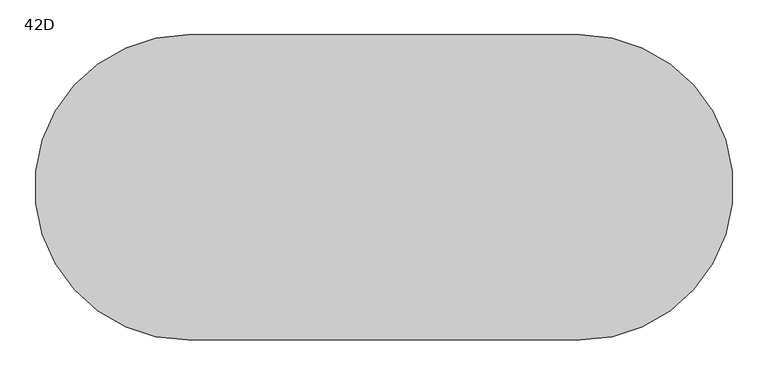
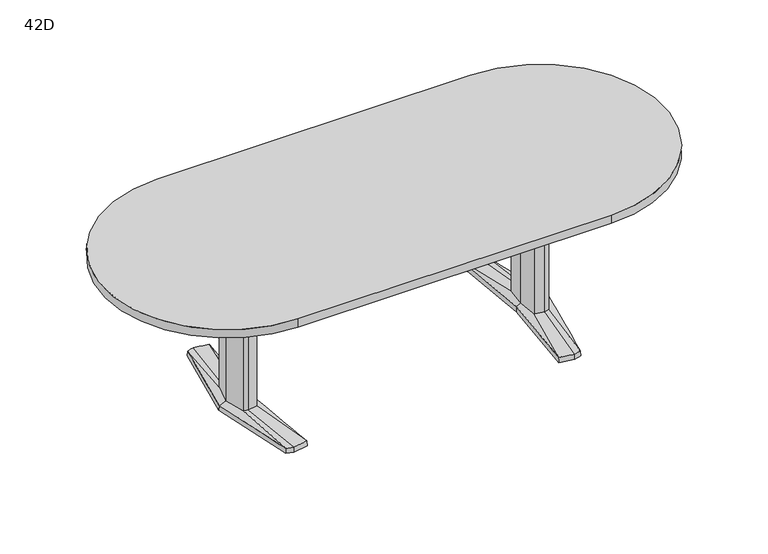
"""IFC4 building model written with IfcOpenShell, lengths in millimetres: furniture geometry, Coalesse_AM_Table_Conference_ETable2_Racetrack_96in_AluminiumBase : 42D."""

from ifc_helpers import new_model, si_unit, point, frame, frame_2d, origin, place, context, project, spatial, polyline, circle_curve, trimmed, segment, composite_curve, outline, extrude, source, transform, mapped, element, save
from ifc_brep_helpers import plane_surface, spline_surface, advanced_brep


def furniture_42d_156f3e94(model_context):
    return source(origin(), model_context, "Body", "SolidModel", [
        advanced_brep(
        [(614.8503471, -379.3768856, 25.4), (644.5756636, -371.5332654, 25.4), (668.2327243, -89.293702, 36.5125), (648.9795254, -94.605478, 36.5125), (606.0521001, -87.0529327, 36.5125), (551.7612538, -368.5071562, 25.4), (597.9364207, 0.0, 36.5125), (579.8389754, 0.3970149, 25.4), (606.0521001, 87.0529327, 36.5125), (551.7615002, 368.5172593, 25.4), (648.9795254, 94.605478, 36.5125), (614.8502233, 379.3769183, 25.4), (668.2327243, 89.293702, 36.5125), (644.7535458, 371.4863276, 25.4), (692.1595251, 0.0, 36.5125), (721.4851663, 0.0003516, 25.4), (578.2468742, 0.3968871, 3.175), (550.06875, 369.8367279, 3.175), (614.9213004, 381.0, 3.175), (646.1093245, 372.7704151, 3.175), (723.10625, 0.0, 3.175), (645.9309817, -372.8174744, 3.175), (614.9213004, -381.0, 3.175), (550.06875, -369.8264415, 3.175), (649.5979264, 107.6121478, 3.175), (594.3065451, 97.8843184, 3.175), (585.1810887, 0.0, 3.175), (594.3065451, -97.8843184, 3.175), (649.5979264, -107.6121478, 3.175), (678.6183473, -99.6056872, 3.175), (705.3083085, 0.0, 3.175), (678.6183473, 99.6056872, 3.175), (613.4286812, 346.9152841, 3.175), (557.7811371, 337.3364985, 3.175), (560.1889918, 324.8641942, 3.175), (612.8600644, 333.9306305, 3.175), (648.6725609, 324.4807859, 3.175), (647.5544526, 337.9105158, 3.175), (613.4286812, -346.9152841, 3.175), (647.5544526, -337.9105158, 3.175), (648.6725609, -324.4807859, 3.175), (612.8600644, -333.9306305, 3.175), (560.1889918, -324.8641942, 3.175), (557.7811371, -337.3364985, 3.175), (649.5979264, 107.6121478, 0.0), (678.6183473, 99.6056872, 0.0), (705.3083085, 0.0, 0.0), (678.6183473, -99.6056872, 0.0), (649.5979264, -107.6121478, 0.0), (594.3065451, -97.8843184, 0.0), (585.1810887, 0.0, 0.0), (594.3065451, 97.8843184, 0.0), (613.4286812, 346.9152841, 0.0), (647.5544526, 337.9105158, 0.0), (648.6725609, 324.4807859, 0.0), (612.8600644, 333.9306305, 0.0), (560.1889918, 324.8641942, 0.0), (557.7811371, 337.3364985, 0.0), (613.4286812, -346.9152841, 0.0), (557.7811371, -337.3364985, 0.0), (560.1889918, -324.8641942, 0.0), (612.8600644, -333.9306305, 0.0), (648.6725609, -324.4807859, 0.0), (647.5544526, -337.9105158, 0.0), (668.2327243, 89.293702, 698.5), (648.9795254, 94.605478, 698.5), (606.0521001, 87.0529327, 698.5), (597.9364207, 0.0, 698.5), (606.0521001, -87.0529327, 698.5), (648.9795254, -94.605478, 698.5), (668.2327243, -89.293702, 698.5), (692.1595251, 0.0, 698.5)],
        [
            (0, 1),
            (1, 2),
            (2, 3),
            (3, 0),
            (3, 4),
            (4, 5),
            (5, 0),
            (4, 6),
            (6, 7),
            (7, 5),
            (6, 8),
            (8, 9),
            (9, 7),
            (8, 10),
            (10, 11),
            (11, 9),
            (10, 12),
            (12, 13),
            (13, 11),
            (12, 14),
            (14, 15),
            (15, 13),
            (1, 15),
            (14, 2),
            (16, 17),
            (17, 18),
            (18, 19),
            (19, 20),
            (20, 21),
            (21, 22),
            (22, 23),
            (23, 16),
            (24, 25),
            (25, 26),
            (26, 27),
            (27, 28),
            (28, 29),
            (29, 30),
            (30, 31),
            (31, 24),
            (32, 33),
            (33, 34),
            (34, 35),
            (35, 36),
            (36, 37),
            (37, 32),
            (38, 39),
            (39, 40),
            (40, 41),
            (41, 42),
            (42, 43),
            (43, 38),
            (16, 7),
            (9, 17),
            (11, 18),
            (13, 19),
            (15, 20),
            (1, 21),
            (0, 22),
            (5, 23),
            (44, 45),
            (45, 46),
            (46, 47),
            (47, 48),
            (48, 49),
            (49, 50),
            (50, 51),
            (51, 44),
            (52, 53),
            (53, 54),
            (54, 55),
            (55, 56),
            (56, 57),
            (57, 52),
            (58, 59),
            (59, 60),
            (60, 61),
            (61, 62),
            (62, 63),
            (63, 58),
            (44, 24),
            (31, 45),
            (30, 46),
            (29, 47),
            (28, 48),
            (27, 49),
            (26, 50),
            (25, 51),
            (52, 32),
            (37, 53),
            (36, 54),
            (35, 55),
            (34, 56),
            (33, 57),
            (58, 38),
            (43, 59),
            (42, 60),
            (41, 61),
            (40, 62),
            (39, 63),
            (64, 65),
            (65, 66),
            (66, 67),
            (67, 68),
            (68, 69),
            (69, 70),
            (70, 71),
            (71, 64),
            (71, 14),
            (12, 64),
            (70, 2),
            (69, 3),
            (68, 4),
            (67, 6),
            (66, 8),
            (65, 10),
        ],
        [
            spline_surface(1, 1, [[(644.5756636, -371.5332654, 25.4), (614.8503471, -379.3768856, 25.4)], [(668.2327243, -89.293702, 36.5125), (648.9795254, -94.605478, 36.5125)]], [2, 2], [2, 2], [0.0, 1.0], [0.0, 1.0]),
            spline_surface(1, 1, [[(614.8503471, -379.3768856, 25.4), (551.7612538, -368.5071562, 25.4)], [(648.9795254, -94.605478, 36.5125), (606.0521001, -87.0529327, 36.5125)]], [2, 2], [2, 2], [0.0, 1.0], [0.0, 1.0]),
            spline_surface(1, 1, [[(551.7612538, -368.5071562, 25.4), (579.8389754, 0.3970149, 25.4)], [(606.0521001, -87.0529327, 36.5125), (597.9364207, 0.0, 36.5125)]], [2, 2], [2, 2], [0.0, 1.0], [0.0, 1.0]),
            spline_surface(1, 1, [[(579.8389754, 0.3970149, 25.4), (551.7615002, 368.5172593, 25.4)], [(597.9364207, 0.0, 36.5125), (606.0521001, 87.0529327, 36.5125)]], [2, 2], [2, 2], [0.0, 1.0], [0.0, 1.0]),
            spline_surface(1, 1, [[(551.7615002, 368.5172593, 25.4), (614.8502233, 379.3769183, 25.4)], [(606.0521001, 87.0529327, 36.5125), (648.9795254, 94.605478, 36.5125)]], [2, 2], [2, 2], [0.0, 1.0], [0.0, 1.0]),
            spline_surface(1, 1, [[(614.8502233, 379.3769183, 25.4), (644.7535458, 371.4863276, 25.4)], [(648.9795254, 94.605478, 36.5125), (668.2327243, 89.293702, 36.5125)]], [2, 2], [2, 2], [0.0, 1.0], [0.0, 1.0]),
            spline_surface(1, 1, [[(644.7535458, 371.4863276, 25.4), (721.4851663, 0.0003516, 25.4)], [(668.2327243, 89.293702, 36.5125), (692.1595251, 0.0, 36.5125)]], [2, 2], [2, 2], [0.0, 1.0], [0.0, 1.0]),
            spline_surface(1, 1, [[(721.4851663, 0.0003516, 25.4), (644.5756636, -371.5332654, 25.4)], [(692.1595251, 0.0, 36.5125), (668.2327243, -89.293702, 36.5125)]], [2, 2], [2, 2], [0.0, 1.0], [0.0, 1.0]),
            plane_surface(frame((615.4216914, 0.0450143, 3.175), z_axis=(0.0, 0.0, -1.0), x_axis=(-0.9669048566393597, -0.2551372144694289, 0.0))),
            plane_surface(frame((564.1578121, 185.1168075, 3.175), z_axis=(-0.9945699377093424, -0.07585840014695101, 0.0712470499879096), x_axis=(-0.07605167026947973, 0.9971038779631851, 0.0))),
            plane_surface(frame((582.4950252, 375.418364, 3.175), z_axis=(-0.1692071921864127, 0.9830019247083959, 0.07124704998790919), x_axis=(0.985506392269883, 0.16963829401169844, 0.0))),
            plane_surface(frame((630.5153124, 376.8852076, 3.175), z_axis=(0.2544888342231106, 0.9644476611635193, 0.07124704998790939), x_axis=(0.9669048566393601, -0.25513721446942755, 0.0))),
            plane_surface(frame((684.6077872, 186.3852076, 3.175), z_axis=(0.9768383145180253, 0.2017690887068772, 0.07124704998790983), x_axis=(0.20228315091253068, -0.9793270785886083, 0.0))),
            plane_surface(frame((684.5186158, -186.4087372, 3.175), z_axis=(0.9767507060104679, -0.20219276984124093, 0.07124704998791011), x_axis=(-0.2027079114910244, -0.9792392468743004, 0.0))),
            plane_surface(frame((630.426141, -376.9087372, 3.175), z_axis=(0.2544888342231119, -0.9644476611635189, 0.0712470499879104), x_axis=(-0.9669048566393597, -0.2551372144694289, 0.0))),
            plane_surface(frame((582.4950252, -375.4132207, 3.175), z_axis=(-0.16935861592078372, -0.982975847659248, 0.07124704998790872), x_axis=(-0.9854802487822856, 0.16979010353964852, 0.0))),
            plane_surface(frame((564.1578121, -184.7147772, 3.175), z_axis=(-0.9945820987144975, 0.07569878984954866, 0.07124704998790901), x_axis=(0.07589165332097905, 0.9971160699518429, 0.0))),
            plane_surface(frame((652.3571479, 106.8509046, 0.0), z_axis=(0.0, 0.0, -1.0000000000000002), x_axis=(-0.9639855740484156, 0.26595453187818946, 0.0))),
            plane_surface(frame((649.5979264, 107.6121478, 3.175), z_axis=(0.26595453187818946, 0.9639855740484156, 0.0), x_axis=(0.0, 0.0, -1.0))),
            plane_surface(frame((678.6183473, 99.6056872, 3.175), z_axis=(0.9659241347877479, 0.2588253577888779, 0.0), x_axis=(0.0, 0.0, -1.0))),
            plane_surface(frame((705.3083085, 0.0, 3.175), z_axis=(0.9659241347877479, -0.2588253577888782, 0.0), x_axis=(0.0, 0.0, -1.0))),
            plane_surface(frame((678.6183473, -99.6056872, 3.175), z_axis=(0.26595453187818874, -0.9639855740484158, 0.0), x_axis=(0.0, 0.0, -1.0))),
            plane_surface(frame((649.5979264, -107.6121478, 3.175), z_axis=(-0.17327617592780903, -0.9848732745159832, 0.0), x_axis=(0.0, 0.0, -1.0))),
            plane_surface(frame((594.3065451, -97.8843184, 3.175), z_axis=(-0.9956824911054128, -0.0928244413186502, 0.0), x_axis=(0.0, 0.0, -1.0))),
            plane_surface(frame((585.1810887, 0.0, 3.175), z_axis=(-0.9956824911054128, 0.09282444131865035, 0.0), x_axis=(0.0, 0.0, -1.0))),
            plane_surface(frame((594.3065451, 97.8843184, 3.175), z_axis=(-0.17327617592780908, 0.984873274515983, 0.0), x_axis=(0.0, 0.0, -1.0))),
            plane_surface(frame((613.4286812, 346.9152841, 3.175), z_axis=(0.25513721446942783, 0.9669048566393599, 0.0), x_axis=(0.0, 0.0, -1.0))),
            plane_surface(frame((647.5544526, 337.9105158, 3.175), z_axis=(0.9965521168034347, 0.0829691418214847, 0.0), x_axis=(0.0, 0.0, -1.0))),
            plane_surface(frame((648.6725609, 324.4807859, 3.175), z_axis=(-0.25513721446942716, -0.9669048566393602, 0.0), x_axis=(0.0, 0.0, -1.0))),
            plane_surface(frame((612.8600644, 333.9306305, 3.175), z_axis=(0.16963829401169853, -0.985506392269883, 0.0), x_axis=(0.0, 0.0, -1.0))),
            plane_surface(frame((560.1889918, 324.8641942, 3.175), z_axis=(-0.9818699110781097, -0.18955600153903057, 0.0), x_axis=(0.0, 0.0, -1.0))),
            plane_surface(frame((557.7811371, 337.3364985, 3.175), z_axis=(-0.16963829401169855, 0.9855063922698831, 0.0), x_axis=(0.0, 0.0, -1.0))),
            plane_surface(frame((613.4286812, -346.9152841, 3.175), z_axis=(-0.1696382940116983, -0.9855063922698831, 0.0), x_axis=(0.0, 0.0, -1.0))),
            plane_surface(frame((557.7811371, -337.3364985, 3.175), z_axis=(-0.9818699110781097, 0.18955600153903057, 0.0), x_axis=(0.0, 0.0, -1.0))),
            plane_surface(frame((560.1889918, -324.8641942, 3.175), z_axis=(0.16963829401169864, 0.985506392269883, 0.0), x_axis=(0.0, 0.0, -1.0))),
            plane_surface(frame((612.8600644, -333.9306305, 3.175), z_axis=(-0.2551372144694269, 0.9669048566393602, 0.0), x_axis=(0.0, 0.0, -1.0))),
            plane_surface(frame((648.6725609, -324.4807859, 3.175), z_axis=(0.9965521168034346, -0.0829691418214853, 0.0), x_axis=(0.0, 0.0, -1.0))),
            plane_surface(frame((647.5544526, -337.9105158, 3.175), z_axis=(0.2551372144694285, -0.9669048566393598, 0.0), x_axis=(0.0, 0.0, -1.0))),
            plane_surface(frame((692.1595251, 0.0, 698.5), z_axis=(0.0, 0.0, 1.0), x_axis=(0.25882535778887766, -0.965924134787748, 0.0))),
            plane_surface(frame((668.2327243, 89.293702, 698.5), z_axis=(0.965924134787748, 0.25882535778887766, 0.0), x_axis=(0.0, 0.0, -1.0))),
            plane_surface(frame((692.1595251, 0.0, 698.5), z_axis=(0.965924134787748, -0.2588253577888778, 0.0), x_axis=(0.0, 0.0, -1.0))),
            plane_surface(frame((668.2327243, -89.293702, 698.5), z_axis=(0.2659545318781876, -0.963985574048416, 0.0), x_axis=(0.0, 0.0, -1.0))),
            plane_surface(frame((648.9795254, -94.605478, 698.5), z_axis=(-0.1732761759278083, -0.9848732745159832, 0.0), x_axis=(0.0, 0.0, -1.0))),
            plane_surface(frame((606.0521001, -87.0529327, 698.5), z_axis=(-0.9956824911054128, -0.0928244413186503, 0.0), x_axis=(0.0, 0.0, -1.0))),
            plane_surface(frame((597.9364207, 0.0, 698.5), z_axis=(-0.9956824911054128, 0.09282444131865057, 0.0), x_axis=(0.0, 0.0, -1.0))),
            plane_surface(frame((606.0521001, 87.0529327, 698.5), z_axis=(-0.17327617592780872, 0.9848732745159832, 0.0), x_axis=(0.0, 0.0, -1.0))),
            plane_surface(frame((648.9795254, 94.605478, 698.5), z_axis=(0.26595453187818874, 0.9639855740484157, 0.0), x_axis=(0.0, 0.0, -1.0))),
        ],
        [
            (0, [[1, 2, 3, 4]]),
            (1, [[5, 6, 7, -4]]),
            (2, [[8, 9, 10, -6]]),
            (3, [[11, 12, 13, -9]]),
            (4, [[14, 15, 16, -12]]),
            (5, [[17, 18, 19, -15]]),
            (6, [[20, 21, 22, -18]]),
            (7, [[23, -21, 24, -2]]),
            (8, [[25, 26, 27, 28, 29, 30, 31, 32], [33, 34, 35, 36, 37, 38, 39, 40], [41, 42, 43, 44, 45, 46], [47, 48, 49, 50, 51, 52]]),
            (9, [[53, -13, 54, -25]]),
            (10, [[-54, -16, 55, -26]]),
            (11, [[-55, -19, 56, -27]]),
            (12, [[-56, -22, 57, -28]]),
            (13, [[-57, -23, 58, -29]]),
            (14, [[-58, -1, 59, -30]]),
            (15, [[-59, -7, 60, -31]]),
            (16, [[-60, -10, -53, -32]]),
            (17, [[61, 62, 63, 64, 65, 66, 67, 68]]),
            (17, [[69, 70, 71, 72, 73, 74]]),
            (17, [[75, 76, 77, 78, 79, 80]]),
            (18, [[81, -40, 82, -61]]),
            (19, [[-82, -39, 83, -62]]),
            (20, [[-83, -38, 84, -63]]),
            (21, [[-84, -37, 85, -64]]),
            (22, [[-85, -36, 86, -65]]),
            (23, [[-86, -35, 87, -66]]),
            (24, [[-87, -34, 88, -67]]),
            (25, [[-88, -33, -81, -68]]),
            (26, [[89, -46, 90, -69]]),
            (27, [[-90, -45, 91, -70]]),
            (28, [[-91, -44, 92, -71]]),
            (29, [[-92, -43, 93, -72]]),
            (30, [[-93, -42, 94, -73]]),
            (31, [[-94, -41, -89, -74]]),
            (32, [[95, -52, 96, -75]]),
            (33, [[-96, -51, 97, -76]]),
            (34, [[-97, -50, 98, -77]]),
            (35, [[-98, -49, 99, -78]]),
            (36, [[-99, -48, 100, -79]]),
            (37, [[-100, -47, -95, -80]]),
            (38, [[101, 102, 103, 104, 105, 106, 107, 108]]),
            (39, [[109, -20, 110, -108]]),
            (40, [[111, -24, -109, -107]]),
            (41, [[112, -3, -111, -106]]),
            (42, [[113, -5, -112, -105]]),
            (43, [[114, -8, -113, -104]]),
            (44, [[115, -11, -114, -103]]),
            (45, [[116, -14, -115, -102]]),
            (46, [[-110, -17, -116, -101]]),
        ],
    ),
        advanced_brep(
        [(-614.8503471, -379.3768856, 25.4), (-648.9795254, -94.605478, 36.5125), (-668.2327243, -89.293702, 36.5125), (-644.5756636, -371.5332654, 25.4), (-551.7612538, -368.5071562, 25.4), (-606.0521001, -87.0529327, 36.5125), (-579.8389754, 0.3970149, 25.4), (-597.9364207, 0.0, 36.5125), (-551.7615002, 368.5172593, 25.4), (-606.0521001, 87.0529327, 36.5125), (-614.8502233, 379.3769183, 25.4), (-648.9795254, 94.605478, 36.5125), (-644.7535458, 371.4863276, 25.4), (-668.2327243, 89.293702, 36.5125), (-721.4851663, 0.0003516, 25.4), (-692.1595251, 0.0, 36.5125), (-578.2468742, 0.3968871, 3.175), (-550.06875, -369.8264415, 3.175), (-614.9213004, -381.0, 3.175), (-645.9309817, -372.8174744, 3.175), (-723.10625, 0.0, 3.175), (-646.1093245, 372.7704151, 3.175), (-614.9213004, 381.0, 3.175), (-550.06875, 369.8367279, 3.175), (-649.5979264, 107.6121478, 3.175), (-678.6183473, 99.6056872, 3.175), (-705.3083085, 0.0, 3.175), (-678.6183473, -99.6056872, 3.175), (-649.5979264, -107.6121478, 3.175), (-594.3065451, -97.8843184, 3.175), (-585.1810887, 0.0, 3.175), (-594.3065451, 97.8843184, 3.175), (-613.4286812, 346.9152841, 3.175), (-647.5544526, 337.9105158, 3.175), (-648.6725609, 324.4807859, 3.175), (-612.8600644, 333.9306305, 3.175), (-560.1889918, 324.8641942, 3.175), (-557.7811371, 337.3364985, 3.175), (-613.4286812, -346.9152841, 3.175), (-557.7811371, -337.3364985, 3.175), (-560.1889918, -324.8641942, 3.175), (-612.8600644, -333.9306305, 3.175), (-648.6725609, -324.4807859, 3.175), (-647.5544526, -337.9105158, 3.175), (-649.5979264, 107.6121478, 0.0), (-594.3065451, 97.8843184, 0.0), (-585.1810887, 0.0, 0.0), (-594.3065451, -97.8843184, 0.0), (-649.5979264, -107.6121478, 0.0), (-678.6183473, -99.6056872, 0.0), (-705.3083085, 0.0, 0.0), (-678.6183473, 99.6056872, 0.0), (-613.4286812, 346.9152841, 0.0), (-557.7811371, 337.3364985, 0.0), (-560.1889918, 324.8641942, 0.0), (-612.8600644, 333.9306305, 0.0), (-648.6725609, 324.4807859, 0.0), (-647.5544526, 337.9105158, 0.0), (-613.4286812, -346.9152841, 0.0), (-647.5544526, -337.9105158, 0.0), (-648.6725609, -324.4807859, 0.0), (-612.8600644, -333.9306305, 0.0), (-560.1889918, -324.8641942, 0.0), (-557.7811371, -337.3364985, 0.0), (-668.2327243, 89.293702, 698.5), (-692.1595251, 0.0, 698.5), (-668.2327243, -89.293702, 698.5), (-648.9795254, -94.605478, 698.5), (-606.0521001, -87.0529327, 698.5), (-597.9364207, 0.0, 698.5), (-606.0521001, 87.0529327, 698.5), (-648.9795254, 94.605478, 698.5)],
        [
            (0, 1),
            (1, 2),
            (2, 3),
            (3, 0),
            (0, 4),
            (4, 5),
            (5, 1),
            (4, 6),
            (6, 7),
            (7, 5),
            (6, 8),
            (8, 9),
            (9, 7),
            (8, 10),
            (10, 11),
            (11, 9),
            (10, 12),
            (12, 13),
            (13, 11),
            (12, 14),
            (14, 15),
            (15, 13),
            (2, 15),
            (14, 3),
            (16, 17),
            (17, 18),
            (18, 19),
            (19, 20),
            (20, 21),
            (21, 22),
            (22, 23),
            (23, 16),
            (24, 25),
            (25, 26),
            (26, 27),
            (27, 28),
            (28, 29),
            (29, 30),
            (30, 31),
            (31, 24),
            (32, 33),
            (33, 34),
            (34, 35),
            (35, 36),
            (36, 37),
            (37, 32),
            (38, 39),
            (39, 40),
            (40, 41),
            (41, 42),
            (42, 43),
            (43, 38),
            (23, 8),
            (6, 16),
            (22, 10),
            (21, 12),
            (20, 14),
            (19, 3),
            (18, 0),
            (17, 4),
            (44, 45),
            (45, 46),
            (46, 47),
            (47, 48),
            (48, 49),
            (49, 50),
            (50, 51),
            (51, 44),
            (52, 53),
            (53, 54),
            (54, 55),
            (55, 56),
            (56, 57),
            (57, 52),
            (58, 59),
            (59, 60),
            (60, 61),
            (61, 62),
            (62, 63),
            (63, 58),
            (51, 25),
            (24, 44),
            (50, 26),
            (49, 27),
            (48, 28),
            (47, 29),
            (46, 30),
            (45, 31),
            (57, 33),
            (32, 52),
            (56, 34),
            (55, 35),
            (54, 36),
            (53, 37),
            (63, 39),
            (38, 58),
            (62, 40),
            (61, 41),
            (60, 42),
            (59, 43),
            (64, 65),
            (65, 66),
            (66, 67),
            (67, 68),
            (68, 69),
            (69, 70),
            (70, 71),
            (71, 64),
            (64, 13),
            (15, 65),
            (2, 66),
            (1, 67),
            (5, 68),
            (7, 69),
            (9, 70),
            (11, 71),
        ],
        [
            spline_surface(1, 1, [[(-644.5756636, -371.5332654, 25.4), (-668.2327243, -89.293702, 36.5125)], [(-614.8503471, -379.3768856, 25.4), (-648.9795254, -94.605478, 36.5125)]], [2, 2], [2, 2], [0.0, 1.0], [0.0, 1.0]),
            spline_surface(1, 1, [[(-614.8503471, -379.3768856, 25.4), (-648.9795254, -94.605478, 36.5125)], [(-551.7612538, -368.5071562, 25.4), (-606.0521001, -87.0529327, 36.5125)]], [2, 2], [2, 2], [0.0, 1.0], [0.0, 1.0]),
            spline_surface(1, 1, [[(-551.7612538, -368.5071562, 25.4), (-606.0521001, -87.0529327, 36.5125)], [(-579.8389754, 0.3970149, 25.4), (-597.9364207, 0.0, 36.5125)]], [2, 2], [2, 2], [0.0, 1.0], [0.0, 1.0]),
            spline_surface(1, 1, [[(-579.8389754, 0.3970149, 25.4), (-597.9364207, 0.0, 36.5125)], [(-551.7615002, 368.5172593, 25.4), (-606.0521001, 87.0529327, 36.5125)]], [2, 2], [2, 2], [0.0, 1.0], [0.0, 1.0]),
            spline_surface(1, 1, [[(-551.7615002, 368.5172593, 25.4), (-606.0521001, 87.0529327, 36.5125)], [(-614.8502233, 379.3769183, 25.4), (-648.9795254, 94.605478, 36.5125)]], [2, 2], [2, 2], [0.0, 1.0], [0.0, 1.0]),
            spline_surface(1, 1, [[(-614.8502233, 379.3769183, 25.4), (-648.9795254, 94.605478, 36.5125)], [(-644.7535458, 371.4863276, 25.4), (-668.2327243, 89.293702, 36.5125)]], [2, 2], [2, 2], [0.0, 1.0], [0.0, 1.0]),
            spline_surface(1, 1, [[(-644.7535458, 371.4863276, 25.4), (-668.2327243, 89.293702, 36.5125)], [(-721.4851663, 0.0003516, 25.4), (-692.1595251, 0.0, 36.5125)]], [2, 2], [2, 2], [0.0, 1.0], [0.0, 1.0]),
            spline_surface(1, 1, [[(-721.4851663, 0.0003516, 25.4), (-692.1595251, 0.0, 36.5125)], [(-644.5756636, -371.5332654, 25.4), (-668.2327243, -89.293702, 36.5125)]], [2, 2], [2, 2], [0.0, 1.0], [0.0, 1.0]),
            plane_surface(frame((-615.4216914, 0.0450143, 3.175), z_axis=(0.0, 0.0, -1.0), x_axis=(0.9669048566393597, -0.2551372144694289, 0.0))),
            plane_surface(frame((-564.1578121, 185.1168075, 3.175), z_axis=(0.9945699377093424, -0.07585840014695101, 0.0712470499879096), x_axis=(0.07605167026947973, 0.9971038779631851, 0.0))),
            plane_surface(frame((-582.4950252, 375.418364, 3.175), z_axis=(0.1692071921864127, 0.9830019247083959, 0.07124704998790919), x_axis=(-0.985506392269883, 0.16963829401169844, 0.0))),
            plane_surface(frame((-630.5153124, 376.8852076, 3.175), z_axis=(-0.2544888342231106, 0.9644476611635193, 0.07124704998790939), x_axis=(-0.9669048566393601, -0.25513721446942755, 0.0))),
            plane_surface(frame((-684.6077872, 186.3852076, 3.175), z_axis=(-0.9768383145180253, 0.2017690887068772, 0.07124704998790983), x_axis=(-0.20228315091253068, -0.9793270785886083, 0.0))),
            plane_surface(frame((-684.5186158, -186.4087372, 3.175), z_axis=(-0.9767507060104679, -0.20219276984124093, 0.07124704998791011), x_axis=(0.2027079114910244, -0.9792392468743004, 0.0))),
            plane_surface(frame((-630.426141, -376.9087372, 3.175), z_axis=(-0.2544888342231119, -0.9644476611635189, 0.0712470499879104), x_axis=(0.9669048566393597, -0.2551372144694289, 0.0))),
            plane_surface(frame((-582.4950252, -375.4132207, 3.175), z_axis=(0.16935861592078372, -0.982975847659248, 0.07124704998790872), x_axis=(0.9854802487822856, 0.16979010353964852, 0.0))),
            plane_surface(frame((-564.1578121, -184.7147772, 3.175), z_axis=(0.9945820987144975, 0.07569878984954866, 0.07124704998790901), x_axis=(-0.07589165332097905, 0.9971160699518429, 0.0))),
            plane_surface(frame((-652.3571479, 106.8509046, 0.0), z_axis=(0.0, 0.0, -1.0000000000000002), x_axis=(0.9639855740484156, 0.26595453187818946, 0.0))),
            plane_surface(frame((-649.5979264, 107.6121478, 3.175), z_axis=(-0.26595453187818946, 0.9639855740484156, 0.0), x_axis=(0.0, 0.0, -1.0))),
            plane_surface(frame((-678.6183473, 99.6056872, 3.175), z_axis=(-0.9659241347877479, 0.2588253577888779, 0.0), x_axis=(0.0, 0.0, -1.0))),
            plane_surface(frame((-705.3083085, 0.0, 3.175), z_axis=(-0.9659241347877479, -0.2588253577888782, 0.0), x_axis=(0.0, 0.0, -1.0))),
            plane_surface(frame((-678.6183473, -99.6056872, 3.175), z_axis=(-0.26595453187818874, -0.9639855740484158, 0.0), x_axis=(0.0, 0.0, -1.0))),
            plane_surface(frame((-649.5979264, -107.6121478, 3.175), z_axis=(0.17327617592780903, -0.9848732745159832, 0.0), x_axis=(0.0, 0.0, -1.0))),
            plane_surface(frame((-594.3065451, -97.8843184, 3.175), z_axis=(0.9956824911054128, -0.0928244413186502, 0.0), x_axis=(0.0, 0.0, -1.0))),
            plane_surface(frame((-585.1810887, 0.0, 3.175), z_axis=(0.9956824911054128, 0.09282444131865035, 0.0), x_axis=(0.0, 0.0, -1.0))),
            plane_surface(frame((-594.3065451, 97.8843184, 3.175), z_axis=(0.17327617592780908, 0.984873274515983, 0.0), x_axis=(0.0, 0.0, -1.0))),
            plane_surface(frame((-613.4286812, 346.9152841, 3.175), z_axis=(-0.25513721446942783, 0.9669048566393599, 0.0), x_axis=(0.0, 0.0, -1.0))),
            plane_surface(frame((-647.5544526, 337.9105158, 3.175), z_axis=(-0.9965521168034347, 0.0829691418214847, 0.0), x_axis=(0.0, 0.0, -1.0))),
            plane_surface(frame((-648.6725609, 324.4807859, 3.175), z_axis=(0.25513721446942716, -0.9669048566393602, 0.0), x_axis=(0.0, 0.0, -1.0))),
            plane_surface(frame((-612.8600644, 333.9306305, 3.175), z_axis=(-0.16963829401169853, -0.985506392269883, 0.0), x_axis=(0.0, 0.0, -1.0))),
            plane_surface(frame((-560.1889918, 324.8641942, 3.175), z_axis=(0.9818699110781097, -0.18955600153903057, 0.0), x_axis=(0.0, 0.0, -1.0))),
            plane_surface(frame((-557.7811371, 337.3364985, 3.175), z_axis=(0.16963829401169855, 0.9855063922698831, 0.0), x_axis=(0.0, 0.0, -1.0))),
            plane_surface(frame((-613.4286812, -346.9152841, 3.175), z_axis=(0.1696382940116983, -0.9855063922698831, 0.0), x_axis=(0.0, 0.0, -1.0))),
            plane_surface(frame((-557.7811371, -337.3364985, 3.175), z_axis=(0.9818699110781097, 0.18955600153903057, 0.0), x_axis=(0.0, 0.0, -1.0))),
            plane_surface(frame((-560.1889918, -324.8641942, 3.175), z_axis=(-0.16963829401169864, 0.985506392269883, 0.0), x_axis=(0.0, 0.0, -1.0))),
            plane_surface(frame((-612.8600644, -333.9306305, 3.175), z_axis=(0.2551372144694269, 0.9669048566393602, 0.0), x_axis=(0.0, 0.0, -1.0))),
            plane_surface(frame((-648.6725609, -324.4807859, 3.175), z_axis=(-0.9965521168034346, -0.0829691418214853, 0.0), x_axis=(0.0, 0.0, -1.0))),
            plane_surface(frame((-647.5544526, -337.9105158, 3.175), z_axis=(-0.2551372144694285, -0.9669048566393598, 0.0), x_axis=(0.0, 0.0, -1.0))),
            plane_surface(frame((-692.1595251, 0.0, 698.5), z_axis=(0.0, 0.0, 1.0), x_axis=(-0.25882535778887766, -0.965924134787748, 0.0))),
            plane_surface(frame((-668.2327243, 89.293702, 698.5), z_axis=(-0.965924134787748, 0.25882535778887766, 0.0), x_axis=(0.0, 0.0, -1.0))),
            plane_surface(frame((-692.1595251, 0.0, 698.5), z_axis=(-0.965924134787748, -0.2588253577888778, 0.0), x_axis=(0.0, 0.0, -1.0))),
            plane_surface(frame((-668.2327243, -89.293702, 698.5), z_axis=(-0.2659545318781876, -0.963985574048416, 0.0), x_axis=(0.0, 0.0, -1.0))),
            plane_surface(frame((-648.9795254, -94.605478, 698.5), z_axis=(0.1732761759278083, -0.9848732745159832, 0.0), x_axis=(0.0, 0.0, -1.0))),
            plane_surface(frame((-606.0521001, -87.0529327, 698.5), z_axis=(0.9956824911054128, -0.0928244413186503, 0.0), x_axis=(0.0, 0.0, -1.0))),
            plane_surface(frame((-597.9364207, 0.0, 698.5), z_axis=(0.9956824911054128, 0.09282444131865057, 0.0), x_axis=(0.0, 0.0, -1.0))),
            plane_surface(frame((-606.0521001, 87.0529327, 698.5), z_axis=(0.17327617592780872, 0.9848732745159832, 0.0), x_axis=(0.0, 0.0, -1.0))),
            plane_surface(frame((-648.9795254, 94.605478, 698.5), z_axis=(-0.26595453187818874, 0.9639855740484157, 0.0), x_axis=(0.0, 0.0, -1.0))),
        ],
        [
            (0, [[1, 2, 3, 4]]),
            (1, [[-1, 5, 6, 7]]),
            (2, [[-6, 8, 9, 10]]),
            (3, [[-9, 11, 12, 13]]),
            (4, [[-12, 14, 15, 16]]),
            (5, [[-15, 17, 18, 19]]),
            (6, [[-18, 20, 21, 22]]),
            (7, [[-3, 23, -21, 24]]),
            (8, [[25, 26, 27, 28, 29, 30, 31, 32], [33, 34, 35, 36, 37, 38, 39, 40], [41, 42, 43, 44, 45, 46], [47, 48, 49, 50, 51, 52]]),
            (9, [[-32, 53, -11, 54]]),
            (10, [[-31, 55, -14, -53]]),
            (11, [[-30, 56, -17, -55]]),
            (12, [[-29, 57, -20, -56]]),
            (13, [[-28, 58, -24, -57]]),
            (14, [[-27, 59, -4, -58]]),
            (15, [[-26, 60, -5, -59]]),
            (16, [[-25, -54, -8, -60]]),
            (17, [[61, 62, 63, 64, 65, 66, 67, 68]]),
            (17, [[69, 70, 71, 72, 73, 74]]),
            (17, [[75, 76, 77, 78, 79, 80]]),
            (18, [[-68, 81, -33, 82]]),
            (19, [[-67, 83, -34, -81]]),
            (20, [[-66, 84, -35, -83]]),
            (21, [[-65, 85, -36, -84]]),
            (22, [[-64, 86, -37, -85]]),
            (23, [[-63, 87, -38, -86]]),
            (24, [[-62, 88, -39, -87]]),
            (25, [[-61, -82, -40, -88]]),
            (26, [[-74, 89, -41, 90]]),
            (27, [[-73, 91, -42, -89]]),
            (28, [[-72, 92, -43, -91]]),
            (29, [[-71, 93, -44, -92]]),
            (30, [[-70, 94, -45, -93]]),
            (31, [[-69, -90, -46, -94]]),
            (32, [[-80, 95, -47, 96]]),
            (33, [[-79, 97, -48, -95]]),
            (34, [[-78, 98, -49, -97]]),
            (35, [[-77, 99, -50, -98]]),
            (36, [[-76, 100, -51, -99]]),
            (37, [[-75, -96, -52, -100]]),
            (38, [[101, 102, 103, 104, 105, 106, 107, 108]]),
            (39, [[-101, 109, -22, 110]]),
            (40, [[-102, -110, -23, 111]]),
            (41, [[-103, -111, -2, 112]]),
            (42, [[-104, -112, -7, 113]]),
            (43, [[-105, -113, -10, 114]]),
            (44, [[-106, -114, -13, 115]]),
            (45, [[-107, -115, -16, 116]]),
            (46, [[-108, -116, -19, -109]]),
        ],
    ),
        extrude(outline(polyline([(96.8375, 698.5), (103.1875, 698.5), (103.1875, 476.25), (-103.1875, 476.25), (-103.1875, 698.5), (-96.8375, 698.5), (-96.8375, 482.6), (96.8375, 482.6), (96.8375, 698.5)])), frame((-597.9364207, 0.0, 0.0), z_axis=(1.0, 0.0, 0.0), x_axis=(0.0, 1.0, 0.0)), (0.0, 0.0, 1.0), 1195.8728415),
        extrude(outline(composite_curve([segment(trimmed(circle_curve(frame_2d((685.8, 0.0)), 533.4), [point((685.8, 533.4))], [point((685.8, -533.4))], False, "CARTESIAN"), True, "CONTINUOUS"), segment(polyline([(685.8, -533.4), (-685.8, -533.4)]), True, "CONTINUOUS"), segment(trimmed(circle_curve(frame_2d((-685.8, 0.0)), 533.4), [point((-685.8, -533.4))], [point((-685.8, 533.4))], False, "CARTESIAN"), True, "CONTINUOUS"), segment(polyline([(-685.8, 533.4), (685.8, 533.4)]), True, "CONTINUOUS")], self_intersect=False)), frame((0.0, 0.0, 698.5), z_axis=(0.0, 0.0, 1.0), x_axis=(1.0, 0.0, 0.0)), (0.0, 0.0, 1.0), 38.1),
    ])


if __name__ == "__main__":
    model = new_model("IFC4")
    model_context = context("Model", 3, world=origin())
    ifc_project = project(units=[si_unit("LENGTHUNIT", "METRE", prefix="MILLI")], contexts=[model_context])
    site = spatial("IfcSite", under=ifc_project)
    building = spatial("IfcBuilding", under=site)
    placement = place(None, origin())
    furniture_42d_shape = furniture_42d_156f3e94(model_context)
    element("IfcFurniture", 1, ObjectType="Coalesse_AM_Table_Conference_ETable2_Racetrack_96in_AluminiumBase : 42D", at=placement, inside=building, context=model_context, shape_type="MappedRepresentation", body=[
        mapped(furniture_42d_shape, transform((0.0, 0.0, 0.0), x_axis=(1.0, 0.0, 0.0), y_axis=(0.0, 1.0, 0.0), z_axis=(0.0, 0.0, 1.0))),
    ])
    save(model, "model.ifc")
